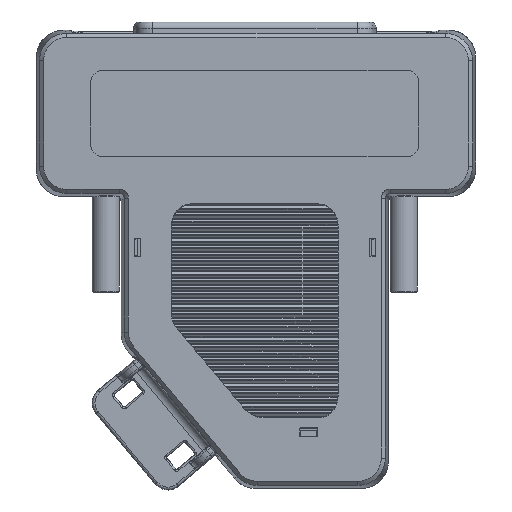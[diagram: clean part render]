
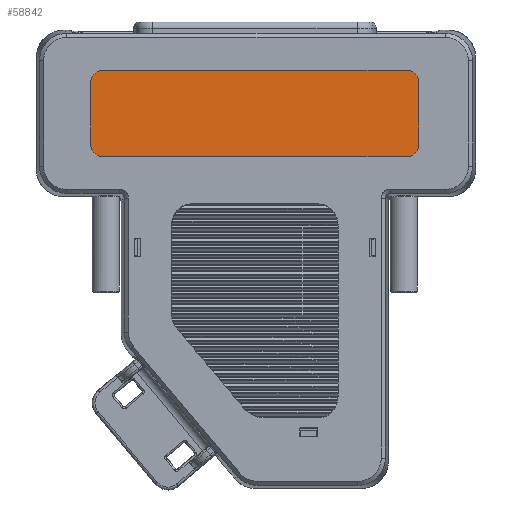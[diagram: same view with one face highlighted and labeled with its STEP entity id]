
A CAD part, front view. The second image highlights one B-rep face of the part: STEP entity #58842.
In plain terms, the highlighted planar face has unit normal (0, 1, 0).
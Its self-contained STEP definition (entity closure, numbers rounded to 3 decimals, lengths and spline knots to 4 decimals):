
#25599=DIRECTION('',(1.,0.,0.));
#25600=VECTOR('',#25599,1.88);
#25601=CARTESIAN_POINT('',(-0.94,0.006,-0.788));
#25602=LINE('',#25601,#25600);
#25603=CARTESIAN_POINT('',(0.94,0.006,-0.708));
#25604=DIRECTION('',(0.,-1.,0.));
#25605=DIRECTION('',(0.,0.,-1.));
#25606=AXIS2_PLACEMENT_3D('',#25603,#25604,#25605);
#25608=DIRECTION('',(0.,0.,1.));
#25609=VECTOR('',#25608,0.38);
#25610=CARTESIAN_POINT('',(1.02,0.006,-0.708));
#25611=LINE('',#25610,#25609);
#25612=CARTESIAN_POINT('',(0.94,0.006,-0.328));
#25613=DIRECTION('',(0.,-1.,0.));
#25614=DIRECTION('',(1.,0.,0.));
#25615=AXIS2_PLACEMENT_3D('',#25612,#25613,#25614);
#25617=DIRECTION('',(-1.,0.,0.));
#25618=VECTOR('',#25617,1.88);
#25619=CARTESIAN_POINT('',(0.94,0.006,-0.248));
#25620=LINE('',#25619,#25618);
#25621=CARTESIAN_POINT('',(-0.94,0.006,-0.328));
#25622=DIRECTION('',(0.,-1.,0.));
#25623=DIRECTION('',(0.,0.,1.));
#25624=AXIS2_PLACEMENT_3D('',#25621,#25622,#25623);
#25626=DIRECTION('',(0.,0.,-1.));
#25627=VECTOR('',#25626,0.38);
#25628=CARTESIAN_POINT('',(-1.02,0.006,-0.328));
#25629=LINE('',#25628,#25627);
#25630=CARTESIAN_POINT('',(-0.94,0.006,-0.708));
#25631=DIRECTION('',(0.,-1.,0.));
#25632=DIRECTION('',(-1.,0.,0.));
#25633=AXIS2_PLACEMENT_3D('',#25630,#25631,#25632);
#26289=CARTESIAN_POINT('',(0.94,0.006,-0.788));
#26290=VERTEX_POINT('',#26289);
#26291=CARTESIAN_POINT('',(-0.94,0.006,-0.788));
#26292=VERTEX_POINT('',#26291);
#26293=CARTESIAN_POINT('',(-1.02,0.006,-0.708));
#26294=VERTEX_POINT('',#26293);
#26295=CARTESIAN_POINT('',(-1.02,0.006,-0.328));
#26296=VERTEX_POINT('',#26295);
#26297=CARTESIAN_POINT('',(-0.94,0.006,-0.248));
#26298=VERTEX_POINT('',#26297);
#26299=CARTESIAN_POINT('',(0.94,0.006,-0.248));
#26300=VERTEX_POINT('',#26299);
#26301=CARTESIAN_POINT('',(1.02,0.006,-0.328));
#26302=VERTEX_POINT('',#26301);
#26303=CARTESIAN_POINT('',(1.02,0.006,-0.708));
#26304=VERTEX_POINT('',#26303);
#58827=CARTESIAN_POINT('',(0.,0.006,-0.518));
#58828=DIRECTION('',(0.,1.,0.));
#58829=DIRECTION('',(-1.,0.,0.));
#58830=AXIS2_PLACEMENT_3D('',#58827,#58828,#58829);
#58831=PLANE('',#58830);
#58832=ORIENTED_EDGE('',*,*,#58723,.T.);
#58833=ORIENTED_EDGE('',*,*,#58738,.T.);
#58834=ORIENTED_EDGE('',*,*,#58752,.T.);
#58835=ORIENTED_EDGE('',*,*,#58766,.T.);
#58836=ORIENTED_EDGE('',*,*,#58780,.T.);
#58837=ORIENTED_EDGE('',*,*,#58794,.T.);
#58838=ORIENTED_EDGE('',*,*,#58808,.T.);
#58839=ORIENTED_EDGE('',*,*,#58821,.T.);
#58840=EDGE_LOOP('',(#58832,#58833,#58834,#58835,#58836,#58837,#58838,#58839));
#58841=FACE_OUTER_BOUND('',#58840,.F.);
#58842=ADVANCED_FACE('',(#58841),#58831,.T.);
#25607=CIRCLE('',#25606,0.08);
#25616=CIRCLE('',#25615,0.08);
#25625=CIRCLE('',#25624,0.08);
#25634=CIRCLE('',#25633,0.08);
#58723=EDGE_CURVE('',#26292,#26290,#25602,.T.);
#58738=EDGE_CURVE('',#26290,#26304,#25607,.T.);
#58752=EDGE_CURVE('',#26304,#26302,#25611,.T.);
#58766=EDGE_CURVE('',#26302,#26300,#25616,.T.);
#58780=EDGE_CURVE('',#26300,#26298,#25620,.T.);
#58794=EDGE_CURVE('',#26298,#26296,#25625,.T.);
#58808=EDGE_CURVE('',#26296,#26294,#25629,.T.);
#58821=EDGE_CURVE('',#26294,#26292,#25634,.T.);
